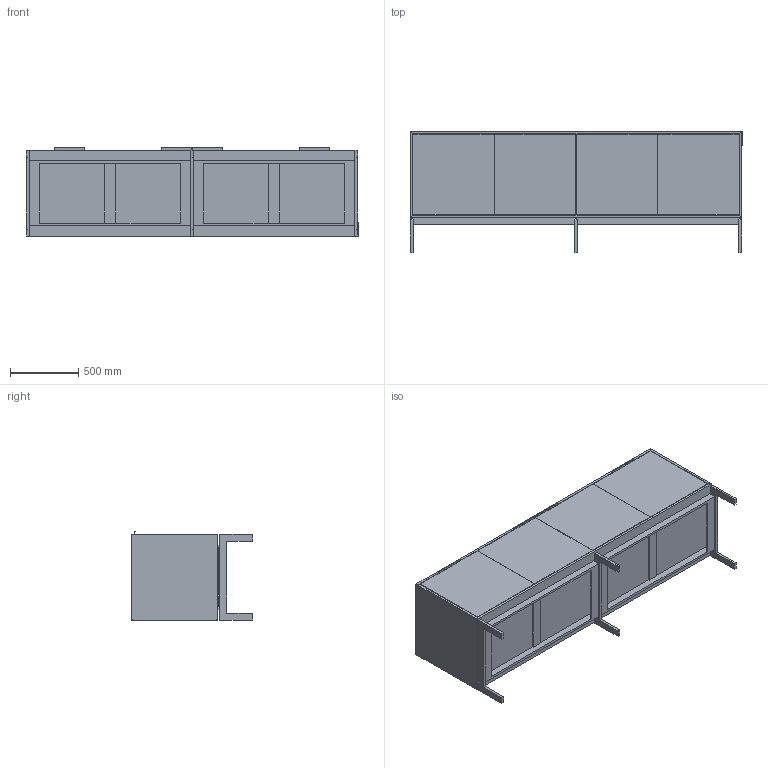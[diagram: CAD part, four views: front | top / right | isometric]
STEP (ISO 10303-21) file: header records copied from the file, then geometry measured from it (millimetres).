
FILE_DESCRIPTION(/* description */ ('','CAx-IF Rec.Pracs.---Representation and Presentation of Product Manufacturing Information (PMI)---4.0---2014-10-13'),/* implementation_level */ '2;1');
FILE_NAME(/* name */ 'CREDENZA STORAGE_ELEVATE 1.stp',/* time_stamp */ '2024-12-07T17:58:49-05:00',/* author */ ('mbowman'),/* organization */ (''),/* preprocessor_version */ 'ST-DEVELOPER v19.2',/* originating_system */ 'Autodesk Inventor 2023',/* authorisation */ '');
FILE_SCHEMA (('AP242_MANAGED_MODEL_BASED_3D_ENGINEERING_MIM_LF { 1 0 10303 442 1 1 4 }'));
Length unit declared in the file: inch
Products named in the file (3): ELEVATE^CREDENZA 35h_25x96 4 DOOR-SOLID ASSEMBLY; ELEVATE^CREDENZA 35h_25x96 4 DOOR-PARTS SOLID; HAFELE 106.04.06-3 FINISHES
Assembly tree (5 placements, depth 2):
  ELEVATE^CREDENZA 35h_25x96 4 DOOR-SOLID ASSEMBLY
    ELEVATE^CREDENZA 35h_25x96 4 DOOR-PARTS SOLID
    HAFELE 106.04.06-3 FINISHES  x4
Bounding box: 2438.4 x 889 x 654.05 mm (x, y, z)
Volume: 156770914.5 mm3; surface area: 18014839.6 mm2
Topology: 17 solids, 17 shells, 240 faces, 612 edges, 400 vertices
Faces by surface type: plane 208, cylinder 24, cone 8
Entity records: 6230 total; most frequent: CARTESIAN_POINT 1329, ORIENTED_EDGE 876, DIRECTION 834, EDGE_CURVE 438, LINE 422, VECTOR 422, VERTEX_POINT 286, STYLED_ITEM 259
